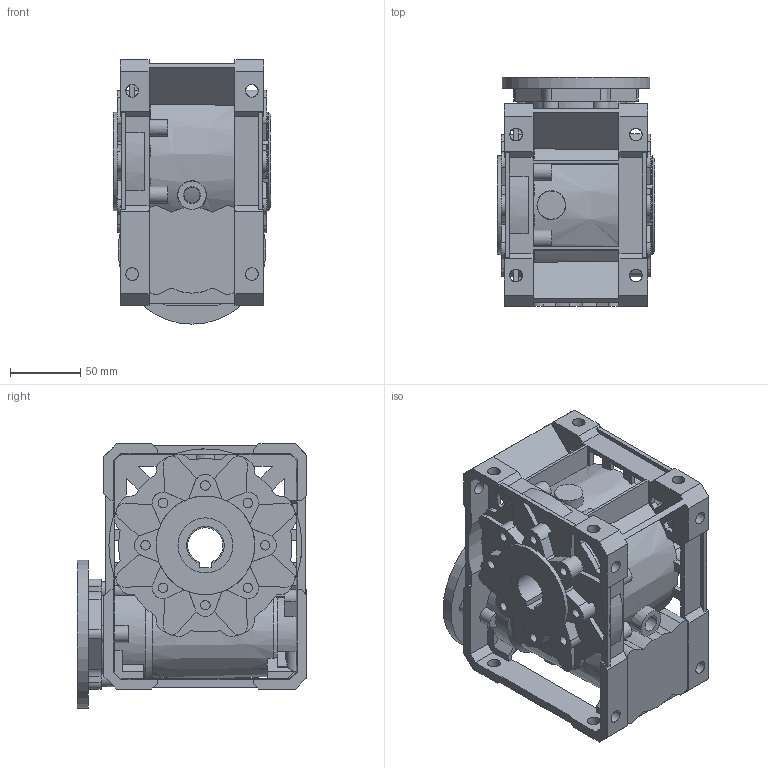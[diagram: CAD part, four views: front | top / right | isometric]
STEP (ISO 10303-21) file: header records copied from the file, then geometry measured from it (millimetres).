
FILE_DESCRIPTION (( 'STEP AP203' ), '1' );
FILE_NAME ('MU 63 PAM 71 B14.STEP', '2016-03-10T08:45:40', ( 'm.piscopiello' ), ( '' ), 'SwSTEP 2.0', 'SolidWorks 2015', '' );
FILE_SCHEMA (( 'CONFIG_CONTROL_DESIGN' ));
Length unit declared in the file: millimetre
Products named in the file (1): MU 63 PAM 71 B14
Bounding box: 112 x 163 x 187.5 mm (x, y, z)
Volume: 1627741.7 mm3; surface area: 219274.8 mm2
Topology: 1 solids, 1 shells, 762 faces, 2241 edges, 1482 vertices
Faces by surface type: plane 490, cylinder 191, cone 53, torus 20, bspline 7, sphere 1
Full cylindrical faces by diameter (mm): 5 x6, 6.5 x4, 6.647 x8, 7.459 x7, 9 x14, 20 x1, 35 x1, 55 x1, 68 x1, 70 x2, 105 x1
Entity records: 28251 total; most frequent: CARTESIAN_POINT 8406, ORIENTED_EDGE 4274, DIRECTION 3899, EDGE_CURVE 2137, VERTEX_POINT 1449, AXIS2_PLACEMENT_3D 1335, LINE 1229, VECTOR 1229
